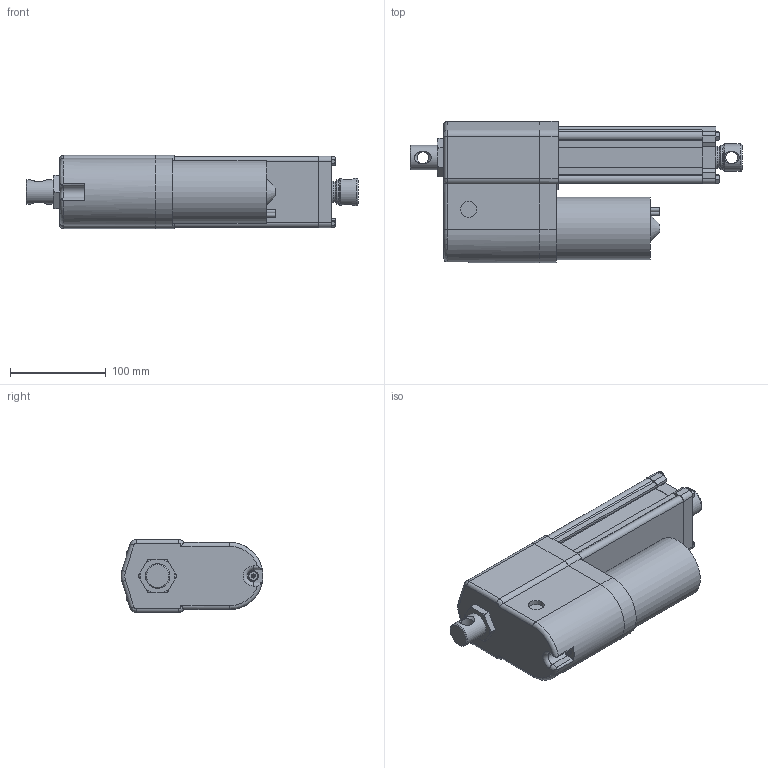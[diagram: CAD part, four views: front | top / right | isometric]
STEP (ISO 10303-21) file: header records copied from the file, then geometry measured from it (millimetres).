
FILE_DESCRIPTION( ( 'STEP AP203' ), '1' );
FILE_NAME( 'p:/temp/worker_511/temp/exporttempdir_4304_1284_JvDzZ/format_0/DA12-05A65M10M0NPO-AMM.stp', '2020-04-12T18:17:24', ( 'License CC BY-ND 4.0' ), ( 'CADENAS' ), ' ', 'PARTsolutions', ' ' );
FILE_SCHEMA( ( 'CONFIG_CONTROL_DESIGN' ) );
Length unit declared in the file: millimetre
Products named in the file (8): DA12-05A65M10M0NPO-AMM; _ELECTRAK-LA14-DA12-05A65MM0NPO-10M-EU-REAR; _Electrak-10-EU-RA-D602700; _D602768eu; _ELECTRAK-LA14-DA12--MOTOR; _DA12-05A65M10M0NPOAMMtube; _ELECTRAK-LA14-DA12--10-PLATE; _ELECTRAK-LA14-DA12--1005A65MNPOM-ROD
Assembly tree (7 placements, depth 2):
  DA12-05A65M10M0NPO-AMM
    _ELECTRAK-LA14-DA12-05A65MM0NPO-10M-EU-REAR
    _Electrak-10-EU-RA-D602700
    _D602768eu
    _ELECTRAK-LA14-DA12--MOTOR
    _DA12-05A65M10M0NPOAMMtube
    _ELECTRAK-LA14-DA12--10-PLATE
    _ELECTRAK-LA14-DA12--1005A65MNPOM-ROD
Bounding box: 346.05 x 148 x 76.2 mm (x, y, z)
Volume: 1814468.1 mm3; surface area: 251909.1 mm2
Topology: 7 solids, 8 shells, 378 faces, 942 edges, 611 vertices
Faces by surface type: plane 184, cylinder 131, cone 45, torus 14, bspline 4
Full cylindrical faces by diameter (mm): 4 x2, 4.126 x1, 4.8 x5, 5 x5, 5.6 x4, 7.878 x4, 9.398 x1, 12.2 x2, 16 x1, 16.5 x1, 21.8 x1, 25.2 x1, 25.4 x1, 26.24 x1, 28.5 x1, 28.6 x2, 47.625 x1, 65.3 x1
Entity records: 11834 total; most frequent: CARTESIAN_POINT 2729, DIRECTION 1869, ORIENTED_EDGE 1744, EDGE_CURVE 872, AXIS2_PLACEMENT_3D 702, VERTEX_POINT 602, EDGE_LOOP 485, LINE 465
